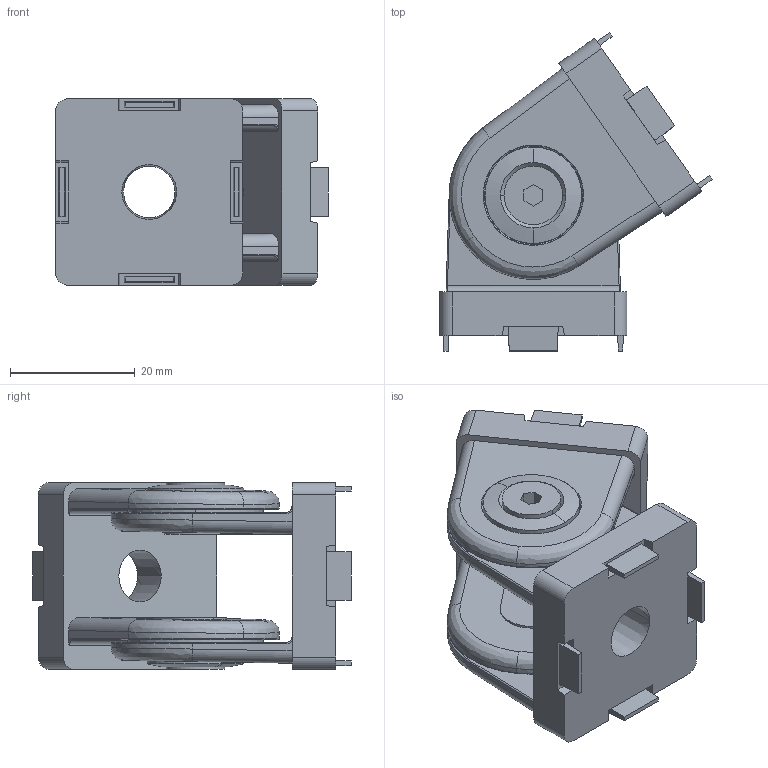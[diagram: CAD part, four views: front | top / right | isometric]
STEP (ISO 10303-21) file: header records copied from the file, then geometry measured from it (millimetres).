
FILE_DESCRIPTION(('STEP AP214'),'1');
FILE_NAME('C:/TPO v2/SharedFS/Outgoing/fath_093g30an08.stp','2016-06-01T18:41:37',('TraceParts'),('TraceParts S.A.'),'Spatial InterOp 3D',' ',' ');
FILE_SCHEMA(('automotive_design'));
Length unit declared in the file: millimetre
Products named in the file (8): 093g30an08|NAUO1#093g30r01_093g30r07;V11-0,2; 093g30an08|NAUO2#093g30r01_093g30r07;V11-0,2; 093g30an08|NAUO3#093gr09_093gr09;V2-0,3; 093g30an08|NAUO4#093gr09_093gr09;V2-0,3; 093g30an08|NAUO5#093gr10_093 g r10;V1-0,2; 093g30an08|NAUO6#093gr10_093 g r10;V1-0,2; 093g30an08|NAUO7#4din7991m0508ms01_4 din 7991 m0508m s01;F1-0,5; 093g30an08|NAUO8#4din7991m0508ms01_4 din 7991 m0508m s01;F1-0,5
Bounding box: 43.72 x 51.1 x 30 mm (x, y, z)
Volume: 21098.6 mm3; surface area: 14422.5 mm2
Topology: 8 solids, 8 shells, 290 faces, 686 edges, 432 vertices
Faces by surface type: plane 138, cylinder 76, torus 28, cone 28, bspline 16, sphere 4
Entity records: 11248 total; most frequent: CARTESIAN_POINT 2064, DIRECTION 1418, ORIENTED_EDGE 1372, EDGE_CURVE 686, AXIS2_PLACEMENT_3D 506, VERTEX_POINT 432, LINE 406, VECTOR 406
